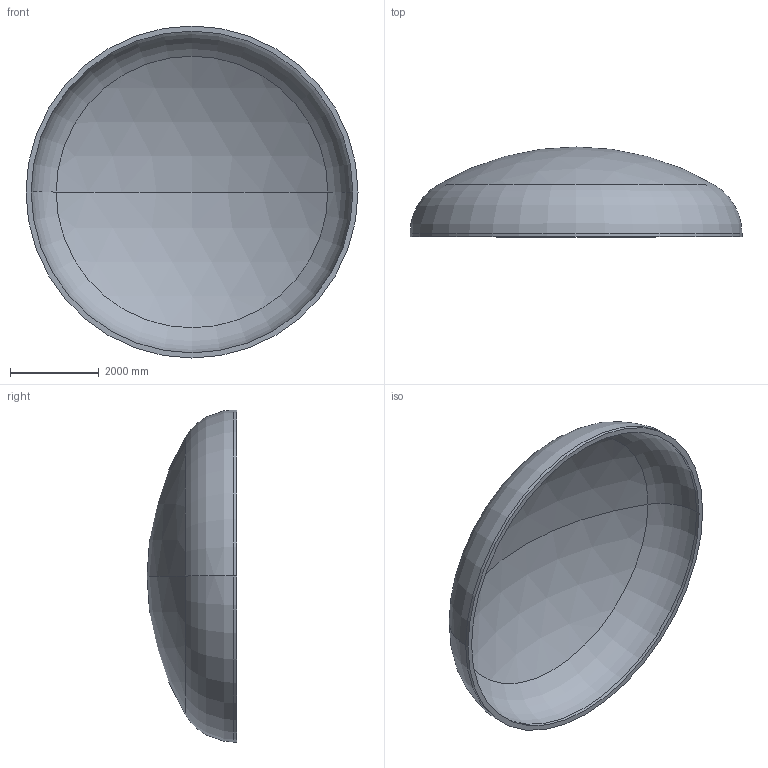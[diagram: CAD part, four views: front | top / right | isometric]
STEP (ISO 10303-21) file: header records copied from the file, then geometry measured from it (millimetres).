
FILE_DESCRIPTION (( 'STEP AP203' ), '1' );
FILE_NAME ('DIN 28013 Korbbogenform_-_Boden DIN 28013 - 7500 x 75 - I - s=116.step', '2016-07-04T10:57:45', ( '' ), ( '' ), 'SwSTEP 2.0', 'SolidWorks 2013', '' );
FILE_SCHEMA (( 'CONFIG_CONTROL_DESIGN' ));
Length unit declared in the file: millimetre
Products named in the file (1): DIN 28013 Korbbogenform_-_Boden DIN 28013 - 7500 x 75 - I - s=116
Bounding box: 7500 x 2028.24 x 7500 mm (x, y, z)
Volume: 7156020201.1 mm3; surface area: 126098706 mm2
Topology: 1 solids, 1 shells, 13 faces, 24 edges, 14 vertices
Faces by surface type: torus 4, cylinder 4, sphere 4, plane 1
Entity records: 407 total; most frequent: DIRECTION 72, CARTESIAN_POINT 52, ORIENTED_EDGE 48, AXIS2_PLACEMENT_3D 34, EDGE_CURVE 24, CIRCLE 20, VERTEX_POINT 14, EDGE_LOOP 14
